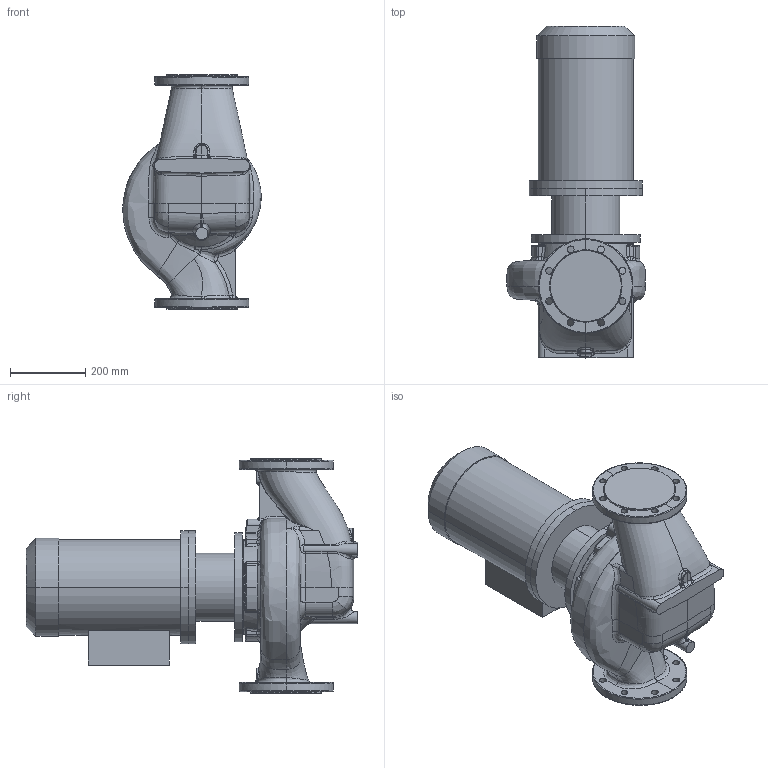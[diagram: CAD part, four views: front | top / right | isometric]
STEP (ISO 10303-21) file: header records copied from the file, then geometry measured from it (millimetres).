
FILE_DESCRIPTION (( 'STEP AP214' ), '1' );
FILE_NAME ('KRL 125-200-4-7,5.STEP', '2026-04-03T05:56:44', ( '' ), ( '' ), 'SwSTEP 2.0', 'SolidWorks 2016', '' );
FILE_SCHEMA (( 'AUTOMOTIVE_DESIGN' ));
Length unit declared in the file: millimetre
Products named in the file (1): KRL 125-200-4-7,5
Bounding box: 366.64 x 879.3 x 620 mm (x, y, z)
Volume: 59306177.4 mm3; surface area: 1770158.5 mm2
Topology: 4 solids, 4 shells, 635 faces, 1534 edges, 912 vertices
Faces by surface type: bspline 312, cylinder 163, plane 92, torus 29, cone 24, sphere 15
Entity records: 63911 total; most frequent: CARTESIAN_POINT 44869, ORIENTED_EDGE 3042, DIRECTION 1803, EDGE_CURVE 1521, VERTEX_POINT 912, AXIS2_PLACEMENT_3D 766, EDGE_LOOP 685, UNCERTAINTY_MEASURE_WITH_UNIT 641
